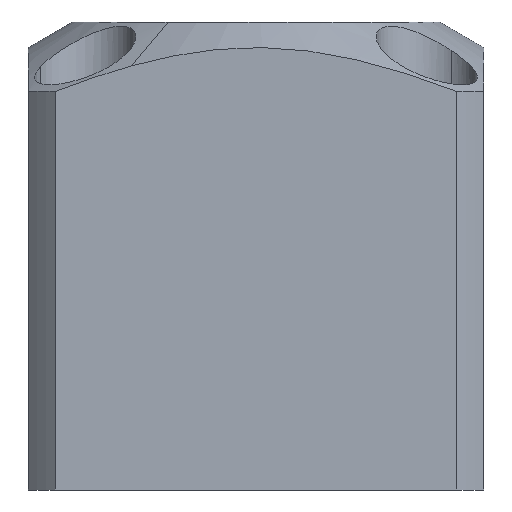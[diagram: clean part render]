
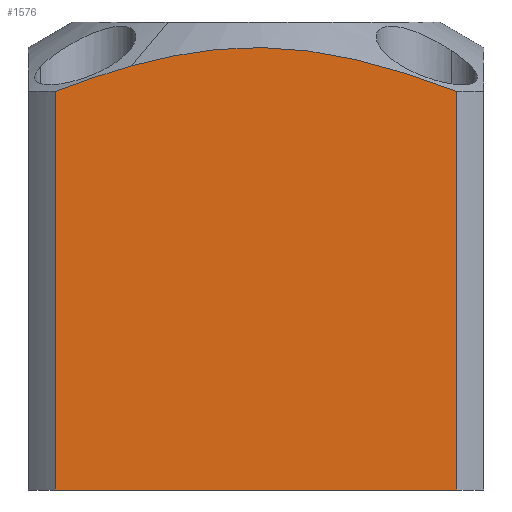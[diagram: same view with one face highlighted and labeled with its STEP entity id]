
A CAD part, front view. The second image highlights one B-rep face of the part: STEP entity #1576.
In plain terms, the highlighted planar face has unit normal (0, -1, 0).
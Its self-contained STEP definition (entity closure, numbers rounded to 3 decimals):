
#1559=AXIS2_PLACEMENT_3D('Plane Axis2P3D',#1556,#1557,#1558) ;
#508=CARTESIAN_POINT('Vertex',(15.875,-18.,0.)) ;
#511=CARTESIAN_POINT('Line Origine',(0.,-18.,0.)) ;
#515=CARTESIAN_POINT('Vertex',(-15.875,-18.,0.)) ;
#616=CARTESIAN_POINT('Line Origine',(-15.875,-18.,18.5)) ;
#620=CARTESIAN_POINT('Vertex',(-15.875,-18.,31.515)) ;
#1308=CARTESIAN_POINT('Vertex',(-9.833,-18.,33.53)) ;
#1312=CARTESIAN_POINT('Control Point',(-9.833,-18.,33.53)) ;
#1313=CARTESIAN_POINT('Control Point',(-7.543,-18.,34.164)) ;
#1314=CARTESIAN_POINT('Control Point',(-5.302,-18.,34.642)) ;
#1315=CARTESIAN_POINT('Control Point',(-3.13,-18.,34.933)) ;
#1316=CARTESIAN_POINT('Control Point',(0.21,-18.,35.097)) ;
#1317=CARTESIAN_POINT('Control Point',(3.583,-18.,34.809)) ;
#1318=CARTESIAN_POINT('Control Point',(4.807,-18.,34.648)) ;
#1319=CARTESIAN_POINT('Control Point',(7.688,-18.,34.14)) ;
#1320=CARTESIAN_POINT('Control Point',(10.663,-18.,33.339)) ;
#1321=CARTESIAN_POINT('Control Point',(12.386,-18.,32.796)) ;
#1322=CARTESIAN_POINT('Control Point',(14.127,-18.,32.183)) ;
#1323=CARTESIAN_POINT('Control Point',(15.875,-18.,31.515)) ;
#1324=CARTESIAN_POINT('Vertex',(15.875,-18.,31.515)) ;
#1544=CARTESIAN_POINT('Line Origine',(15.875,-18.,18.5)) ;
#1556=CARTESIAN_POINT('Axis2P3D Location',(15.875,-18.,0.)) ;
#1562=CARTESIAN_POINT('Control Point',(-9.833,-18.,33.53)) ;
#1563=CARTESIAN_POINT('Control Point',(-11.021,-18.,33.201)) ;
#1564=CARTESIAN_POINT('Control Point',(-12.222,-18.,32.83)) ;
#1565=CARTESIAN_POINT('Control Point',(-13.433,-18.,32.422)) ;
#1566=CARTESIAN_POINT('Control Point',(-14.652,-18.,31.982)) ;
#1567=CARTESIAN_POINT('Control Point',(-15.875,-18.,31.515)) ;
#512=DIRECTION('Vector Direction',(-1.,0.,0.)) ;
#617=DIRECTION('Vector Direction',(0.,0.,1.)) ;
#1545=DIRECTION('Vector Direction',(0.,0.,1.)) ;
#1557=DIRECTION('Axis2P3D Direction',(0.,1.,-0.)) ;
#1558=DIRECTION('Axis2P3D XDirection',(-1.,0.,0.)) ;
#513=VECTOR('Line Direction',#512,1.) ;
#618=VECTOR('Line Direction',#617,1.) ;
#1546=VECTOR('Line Direction',#1545,1.) ;
#1570=ORIENTED_EDGE('',*,*,#1326,.F.) ;
#1571=ORIENTED_EDGE('',*,*,#1568,.T.) ;
#1572=ORIENTED_EDGE('',*,*,#622,.F.) ;
#1573=ORIENTED_EDGE('',*,*,#517,.T.) ;
#1574=ORIENTED_EDGE('',*,*,#1548,.T.) ;
#1576=ADVANCED_FACE('PartBody',(#1575),#1560,.F.) ;
#1311=B_SPLINE_CURVE_WITH_KNOTS('',5,(#1312,#1313,#1314,#1315,#1316,#1317,#1318,#1319,#1320,#1321,#1322,#1323),.UNSPECIFIED.,.F.,.U.,(6,3,3,6),(0.,17.801,27.785,40.982),.UNSPECIFIED.) ;
#1561=B_SPLINE_CURVE_WITH_KNOTS('',5,(#1562,#1563,#1564,#1565,#1566,#1567),.UNSPECIFIED.,.F.,.U.,(6,6),(0.,9.229),.UNSPECIFIED.) ;
#517=EDGE_CURVE('',#516,#509,#514,.F.) ;
#622=EDGE_CURVE('',#516,#621,#619,.T.) ;
#1326=EDGE_CURVE('',#1309,#1325,#1311,.T.) ;
#1548=EDGE_CURVE('',#509,#1325,#1547,.T.) ;
#1568=EDGE_CURVE('',#1309,#621,#1561,.T.) ;
#1569=EDGE_LOOP('',(#1570,#1571,#1572,#1573,#1574)) ;
#1575=FACE_OUTER_BOUND('',#1569,.T.) ;
#514=LINE('Line',#511,#513) ;
#619=LINE('Line',#616,#618) ;
#1547=LINE('Line',#1544,#1546) ;
#1560=PLANE('Plane',#1559) ;
#509=VERTEX_POINT('',#508) ;
#516=VERTEX_POINT('',#515) ;
#621=VERTEX_POINT('',#620) ;
#1309=VERTEX_POINT('',#1308) ;
#1325=VERTEX_POINT('',#1324) ;
